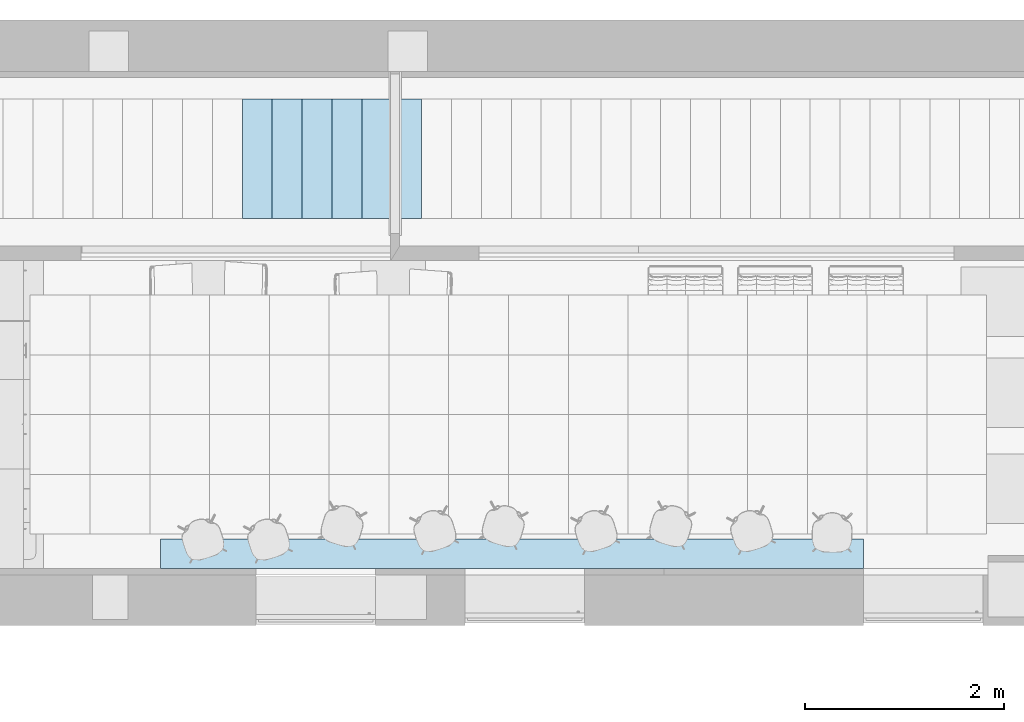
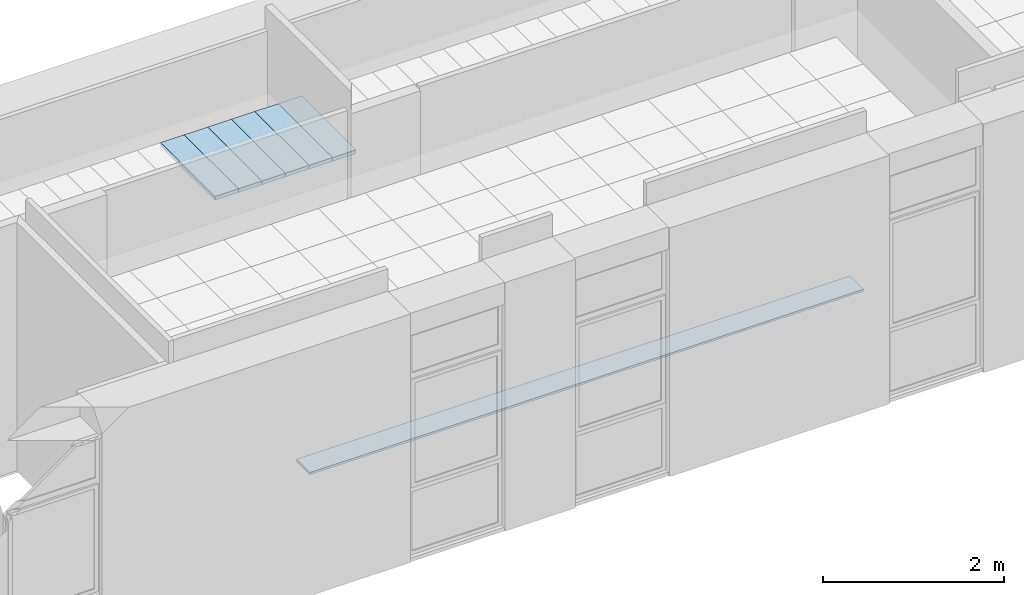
# One storey, part 4 of 60: 7 slabs.
"""IFC2X3 building model written with IfcOpenShell, lengths in millimetres."""

from ifc_helpers import new_model, entity, si_unit, converted_unit, derived_unit, money_unit, direction, frame, origin_with_axes, place, context, subcontext, project, spatial, polyline, outline, extrude, material, layer, layer_set, layer_usage, type_object, element, save


model = new_model("IFC2X3")

# Units and contexts
model_context = context("Model", 3, precision=0.01, world=origin_with_axes(), true_north=direction((0.0, 1.0)))
body_context = subcontext(model_context, "Body", "Model", "MODEL_VIEW")
ifc_project = project(units=[si_unit("LENGTHUNIT", "METRE", prefix="MILLI"), si_unit("AREAUNIT", "SQUARE_METRE"), si_unit("VOLUMEUNIT", "CUBIC_METRE"), converted_unit("PLANEANGLEUNIT", "DEGREE", entity("IfcPlaneAngleMeasure", 0.0174532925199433), si_unit("PLANEANGLEUNIT", "RADIAN"), dimensions=[0, 0, 0, 0, 0, 0, 0]), money_unit("USD"), converted_unit("TIMEUNIT", "Year", entity("IfcTimeMeasure", 31557600.0), si_unit("TIMEUNIT", "SECOND"), dimensions=[0, 0, 1, 0, 0, 0, 0]), si_unit("MASSUNIT", "GRAM", prefix="KILO"), si_unit("THERMODYNAMICTEMPERATUREUNIT", "DEGREE_CELSIUS"), si_unit("LUMINOUSINTENSITYUNIT", "LUMEN"), si_unit("ENERGYUNIT", "JOULE", prefix="MEGA"), derived_unit("THERMALCONDUCTANCEUNIT", [(si_unit("POWERUNIT", "WATT"), 1), (si_unit("LENGTHUNIT", "METRE"), -1), (si_unit("THERMODYNAMICTEMPERATUREUNIT", "KELVIN"), -1)]), derived_unit("SPECIFICHEATCAPACITYUNIT", [(si_unit("ENERGYUNIT", "JOULE"), 1), (si_unit("MASSUNIT", "GRAM", prefix="KILO"), -1), (si_unit("THERMODYNAMICTEMPERATUREUNIT", "KELVIN"), -1)]), derived_unit("MASSDENSITYUNIT", [(si_unit("MASSUNIT", "GRAM", prefix="KILO"), 1), (si_unit("VOLUMEUNIT", "CUBIC_METRE"), -1)])], contexts=[model_context])

# Site, building, storey
site_placement = place(None, origin_with_axes())
site = spatial("IfcSite", under=ifc_project, at=site_placement, Name="Sitio", CompositionType="ELEMENT")
building_placement = place(site_placement, origin_with_axes())
building = spatial("IfcBuilding", under=site, at=building_placement, Name="Construcción", CompositionType="ELEMENT")
storey_placement = place(building_placement, frame((0.0, 0.0, 3650.0), z_axis=(0.0, 0.0, 1.0), x_axis=(1.0, 0.0, 0.0)))
storey = spatial("IfcBuildingStorey", under=building, at=storey_placement, Name="PLANTA 2ª", CompositionType="ELEMENT", Elevation=3650.0)

# Slabs
ifc_material_1 = material(Name="ARQ_ME126_CelRas_Placa_Metallica")
ifc_layer_1 = layer(ifc_material_1, 50.0, ventilated="UNKNOWN")
ifc_layer_set_1 = layer_set([ifc_layer_1], Name="ARQ_ME126_CelRas_Placa_Metallica 50")
ifc_layer_usage_1 = layer_usage(ifc_layer_set_1, "AXIS3", "NEGATIVE", 50.0)
slab_type_1 = type_object("IfcSlabType", Name="ARQ_ME126_CelRas_Placa_Metallica 50", PredefinedType="NOTDEFINED")
slab_1_placement = place(storey_placement, frame((-20370.23708222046, 3586.50452866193, 2500.0), z_axis=(0.0, 0.0, 1.0), x_axis=(1.0, 0.0, 0.0)))
element("IfcSlab", 1, at=slab_1_placement, inside=storey, type_object=slab_type_1, material=ifc_layer_usage_1, Name="SLA - 026", PredefinedType="NOTDEFINED", context=body_context, shape_type="SweptSolid", body=[
    extrude(outline(polyline([(0.0, 0.0), (0.0, -1199.999999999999), (300.0000000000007, -1199.999999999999), (300.0000000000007, 0.0), (0.0, 0.0)])), frame((0.0, 0.0, -50.0), z_axis=(0.0, 0.0, 1.0), x_axis=(1.0, 0.0, 0.0)), (0.0, 0.0, 1.0), 50.0),
])
ifc_layer_usage_2 = layer_usage(ifc_layer_set_1, "AXIS3", "NEGATIVE", 50.0)
slab_2_placement = place(storey_placement, frame((-20070.23708222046, 3586.50452866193, 2500.0), z_axis=(0.0, 0.0, 1.0), x_axis=(1.0, 0.0, 0.0)))
element("IfcSlab", 2, at=slab_2_placement, inside=storey, type_object=slab_type_1, material=ifc_layer_usage_2, Name="SLA - 026", PredefinedType="NOTDEFINED", context=body_context, shape_type="SweptSolid", body=[
    extrude(outline(polyline([(0.0, 0.0), (0.0, -1199.999999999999), (300.0000000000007, -1199.999999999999), (300.0000000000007, 0.0), (0.0, 0.0)])), frame((0.0, 0.0, -50.0), z_axis=(0.0, 0.0, 1.0), x_axis=(1.0, 0.0, 0.0)), (0.0, 0.0, 1.0), 50.0),
])
ifc_layer_usage_3 = layer_usage(ifc_layer_set_1, "AXIS3", "NEGATIVE", 50.0)
slab_3_placement = place(storey_placement, frame((-19470.23708222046, 3586.50452866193, 2500.0), z_axis=(0.0, 0.0, 1.0), x_axis=(1.0, 0.0, 0.0)))
element("IfcSlab", 3, at=slab_3_placement, inside=storey, type_object=slab_type_1, material=ifc_layer_usage_3, Name="SLA - 026", PredefinedType="NOTDEFINED", context=body_context, shape_type="SweptSolid", body=[
    extrude(outline(polyline([(0.0, 0.0), (0.0, -1199.999999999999), (300.0000000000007, -1199.999999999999), (300.0000000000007, 0.0), (0.0, 0.0)])), frame((0.0, 0.0, -50.0), z_axis=(0.0, 0.0, 1.0), x_axis=(1.0, 0.0, 0.0)), (0.0, 0.0, 1.0), 50.0),
])
ifc_layer_usage_4 = layer_usage(ifc_layer_set_1, "AXIS3", "NEGATIVE", 50.0)
slab_4_placement = place(storey_placement, frame((-19170.23708222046, 3586.50452866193, 2500.0), z_axis=(0.0, 0.0, 1.0), x_axis=(1.0, 0.0, 0.0)))
element("IfcSlab", 4, at=slab_4_placement, inside=storey, type_object=slab_type_1, material=ifc_layer_usage_4, Name="SLA - 026", PredefinedType="NOTDEFINED", context=body_context, shape_type="SweptSolid", body=[
    extrude(outline(polyline([(0.0, 0.0), (0.0, -1199.999999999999), (300.0000000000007, -1199.999999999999), (300.0000000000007, 0.0), (0.0, 0.0)])), frame((0.0, 0.0, -50.0), z_axis=(0.0, 0.0, 1.0), x_axis=(1.0, 0.0, 0.0)), (0.0, 0.0, 1.0), 50.0),
])
ifc_layer_usage_5 = layer_usage(ifc_layer_set_1, "AXIS3", "NEGATIVE", 50.0)
slab_5_placement = place(storey_placement, frame((-18870.23708222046, 3586.50452866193, 2500.0), z_axis=(0.0, 0.0, 1.0), x_axis=(1.0, 0.0, 0.0)))
element("IfcSlab", 5, at=slab_5_placement, inside=storey, type_object=slab_type_1, material=ifc_layer_usage_5, Name="SLA - 026", PredefinedType="NOTDEFINED", context=body_context, shape_type="SweptSolid", body=[
    extrude(outline(polyline([(0.0, 0.0), (0.0, -1199.999999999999), (300.0000000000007, -1199.999999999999), (300.0000000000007, 0.0), (0.0, 0.0)])), frame((0.0, 0.0, -50.0), z_axis=(0.0, 0.0, 1.0), x_axis=(1.0, 0.0, 0.0)), (0.0, 0.0, 1.0), 50.0),
])
ifc_layer_usage_6 = layer_usage(ifc_layer_set_1, "AXIS3", "NEGATIVE", 50.0)
slab_6_placement = place(storey_placement, frame((-19770.23708222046, 3586.50452866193, 2500.0), z_axis=(0.0, 0.0, 1.0), x_axis=(1.0, 0.0, 0.0)))
element("IfcSlab", 6, at=slab_6_placement, inside=storey, type_object=slab_type_1, material=ifc_layer_usage_6, Name="SLA - 026", PredefinedType="NOTDEFINED", context=body_context, shape_type="SweptSolid", body=[
    extrude(outline(polyline([(0.0, 0.0), (0.0, -1199.999999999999), (300.0000000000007, -1199.999999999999), (300.0000000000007, 0.0), (0.0, 0.0)])), frame((0.0, 0.0, -50.0), z_axis=(0.0, 0.0, 1.0), x_axis=(1.0, 0.0, 0.0)), (0.0, 0.0, 1.0), 50.0),
])
ifc_material_2 = material(Name="ARQ_FU091_HPL")
ifc_layer_2 = layer(ifc_material_2, 30.0, ventilated="UNKNOWN")
ifc_layer_set_2 = layer_set([ifc_layer_2], Name="ARQ_FU091_HPL 30")
ifc_layer_usage_7 = layer_usage(ifc_layer_set_2, "AXIS3", "NEGATIVE", 30.0)
slab_type_2 = type_object("IfcSlabType", Name="ARQ_FU091_HPL 30", PredefinedType="NOTDEFINED")
slab_7_placement = place(storey_placement, frame((-14135.93135579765, -1128.975823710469, 1200.000000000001), z_axis=(0.0, 0.0, 1.0), x_axis=(1.0, 0.0, 0.0)))
element("IfcSlab", 7, at=slab_7_placement, inside=storey, type_object=slab_type_2, material=ifc_layer_usage_7, Name="SLA - 029", PredefinedType="NOTDEFINED", context=body_context, shape_type="SweptSolid", body=[
    extrude(outline(polyline([(0.0, 0.0), (0.0, 300.0000000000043), (-7054.235008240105, 300.0000000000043), (-7054.235008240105, 0.0), (0.0, 0.0)])), frame((0.0, 0.0, -30.0), z_axis=(0.0, 0.0, 1.0), x_axis=(1.0, 0.0, 0.0)), (0.0, 0.0, 1.0), 30.0),
])

save(model, "model.ifc")
